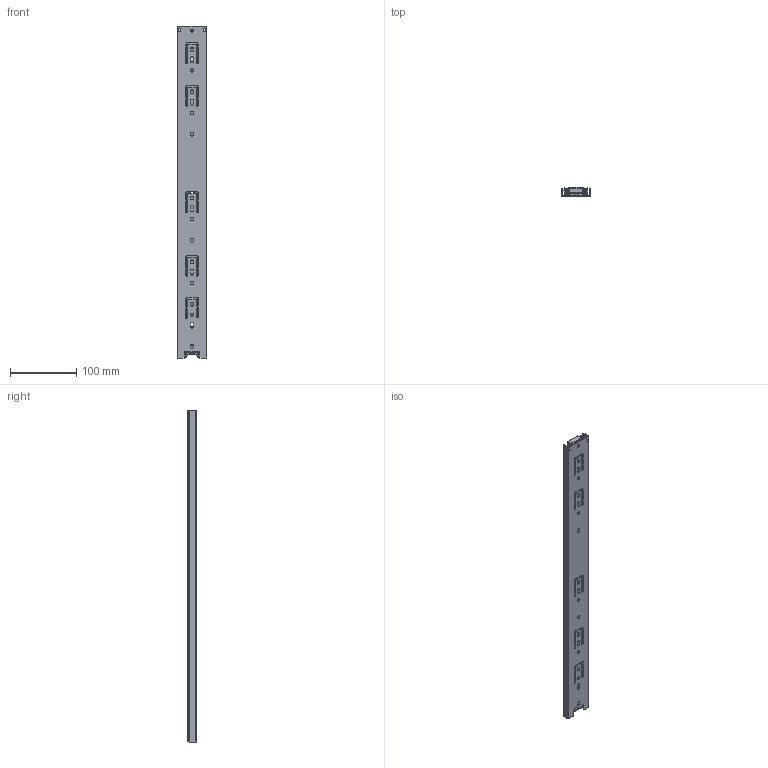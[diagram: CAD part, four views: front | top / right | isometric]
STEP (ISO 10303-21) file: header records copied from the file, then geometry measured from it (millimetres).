
FILE_DESCRIPTION(/* description */ (''),/* implementation_level */ '2;1');
FILE_NAME(/* name */ 'C:\Users\dmitruk\Documents\WORK\\X2\041D0410041F042004100412041B042F042E042904180415\X0\\Шариковые\h45 L-500 AKS.stp',/* time_stamp */ '2022-04-19T17:32:16+03:00',/* author */ ('dmitruk'),/* organization */ ('AKS'),/* preprocessor_version */ 'ST-DEVELOPER v16.5',/* originating_system */ 'Autodesk Inventor 2017',/* authorisation */ '');
FILE_SCHEMA (('AUTOMOTIVE_DESIGN { 1 0 10303 214 3 1 1 }'));
Length unit declared in the file: millimetre
Products named in the file (5): h45 L-500 AKS; h45 L-500 AKS_11; h45 L-500 AKS_12; h45 L-500_13; h45 L-500 AKS_2
Assembly tree (4 placements, depth 2):
  h45 L-500 AKS
    h45 L-500 AKS_11
    h45 L-500 AKS_12
    h45 L-500_13
    h45 L-500 AKS_2
Bounding box: 44 x 13 x 500.01 mm (x, y, z)
Volume: 80111 mm3; surface area: 158738.8 mm2
Topology: 4 solids, 4 shells, 861 faces, 2533 edges, 1648 vertices
Faces by surface type: plane 488, cylinder 309, sphere 64
Full cylindrical faces by diameter (mm): 4.5 x5, 4.9 x4, 5.5 x1, 5.8 x4, 5.9 x3
Entity records: 29336 total; most frequent: CARTESIAN_POINT 5364, ORIENTED_EDGE 5026, DIRECTION 4995, EDGE_CURVE 2513, LINE 1699, VECTOR 1699, AXIS2_PLACEMENT_3D 1648, VERTEX_POINT 1645
